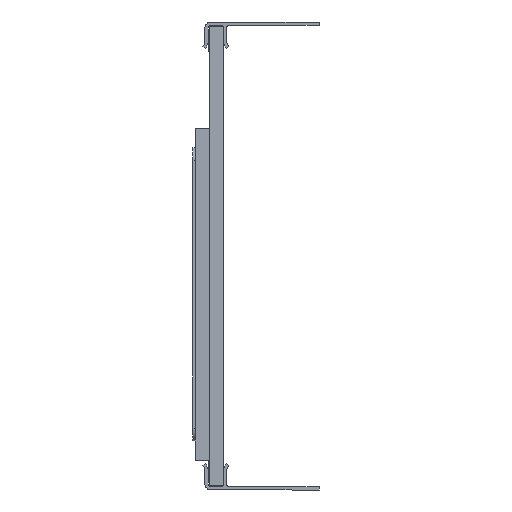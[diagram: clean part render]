
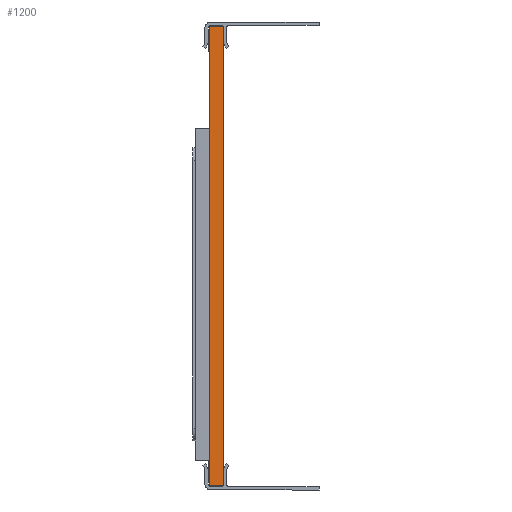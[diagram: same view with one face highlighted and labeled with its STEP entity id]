
A CAD part, left-side view. The second image highlights one B-rep face of the part: STEP entity #1200.
In plain terms, the highlighted planar face has unit normal (-1, 0, 0).
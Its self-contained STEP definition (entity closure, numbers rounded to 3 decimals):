
#295 = CARTESIAN_POINT ( 'NONE',  ( -22.93, 6.1, 18. ) ) ;
#300 = DIRECTION ( 'NONE',  ( 0., 0., 1. ) ) ;
#425 = CARTESIAN_POINT ( 'NONE',  ( -22.93, 6.1, 18. ) ) ;
#426 = DIRECTION ( 'NONE',  ( 0., -1., 0. ) ) ;
#709 = CARTESIAN_POINT ( 'NONE',  ( -22.93, 6.1, -18. ) ) ;
#710 = DIRECTION ( 'NONE',  ( 0., -1., 0. ) ) ;
#1200 = ADVANCED_FACE ( 'NONE', ( #6855 ), #7850, .F. ) ;
#2685 = CARTESIAN_POINT ( 'NONE',  ( -22.93, 5., -18. ) ) ;
#2695 = CARTESIAN_POINT ( 'NONE',  ( -22.93, 6.1, -18. ) ) ;
#2708 = CARTESIAN_POINT ( 'NONE',  ( -22.93, 5., 18. ) ) ;
#2751 = CARTESIAN_POINT ( 'NONE',  ( -22.93, 6.1, 18. ) ) ;
#4230 = ORIENTED_EDGE ( 'NONE', *, *, #10215, .T. ) ;
#4231 = ORIENTED_EDGE ( 'NONE', *, *, #10324, .F. ) ;
#4232 = ORIENTED_EDGE ( 'NONE', *, *, #10263, .F. ) ;
#4233 = ORIENTED_EDGE ( 'NONE', *, *, #10464, .T. ) ;
#4325 = EDGE_LOOP ( 'NONE', ( #4230, #4231, #4232, #4233 ) ) ;
#4867 = VERTEX_POINT ( 'NONE', #2685 ) ;
#4877 = VERTEX_POINT ( 'NONE', #2695 ) ;
#4890 = VERTEX_POINT ( 'NONE', #2708 ) ;
#4933 = VERTEX_POINT ( 'NONE', #2751 ) ;
#6855 = FACE_OUTER_BOUND ( 'NONE', #4325, .T. ) ;
#7850 = PLANE ( 'NONE',  #14913 ) ;
#7851 = CARTESIAN_POINT ( 'NONE',  ( -22.93, 6.1, 18. ) ) ;
#7856 = DIRECTION ( 'NONE',  ( 1., 0., 0. ) ) ;
#7857 = DIRECTION ( 'NONE',  ( 0., 0., -1. ) ) ;
#10087 = CARTESIAN_POINT ( 'NONE',  ( -22.93, 5., 18. ) ) ;
#10089 = DIRECTION ( 'NONE',  ( 0., 0., 1. ) ) ;
#10215 = EDGE_CURVE ( 'NONE', #4867, #4890, #14729, .T. ) ;
#10263 = EDGE_CURVE ( 'NONE', #4877, #4933, #14854, .T. ) ;
#10324 = EDGE_CURVE ( 'NONE', #4933, #4890, #11332, .T. ) ;
#10464 = EDGE_CURVE ( 'NONE', #4877, #4867, #11608, .T. ) ;
#11332 = LINE ( 'NONE', #425, #11335 ) ;
#11335 = VECTOR ( 'NONE', #426, 1000. ) ;
#11608 = LINE ( 'NONE', #709, #11611 ) ;
#11611 = VECTOR ( 'NONE', #710, 1000. ) ;
#14729 = LINE ( 'NONE', #10087, #14732 ) ;
#14732 = VECTOR ( 'NONE', #10089, 1000. ) ;
#14854 = LINE ( 'NONE', #295, #14864 ) ;
#14864 = VECTOR ( 'NONE', #300, 1000. ) ;
#14913 = AXIS2_PLACEMENT_3D ( 'NONE', #7851, #7856, #7857 ) ;
